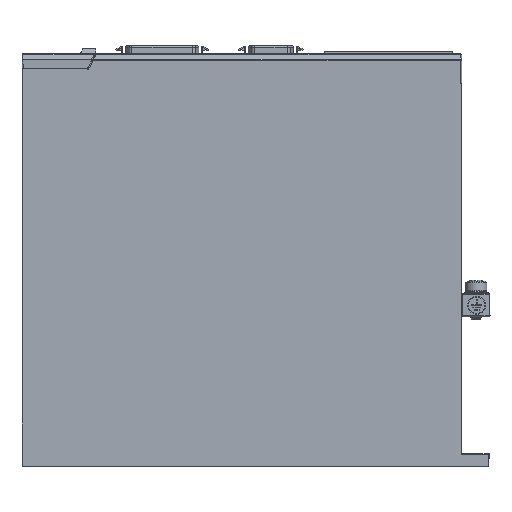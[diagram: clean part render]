
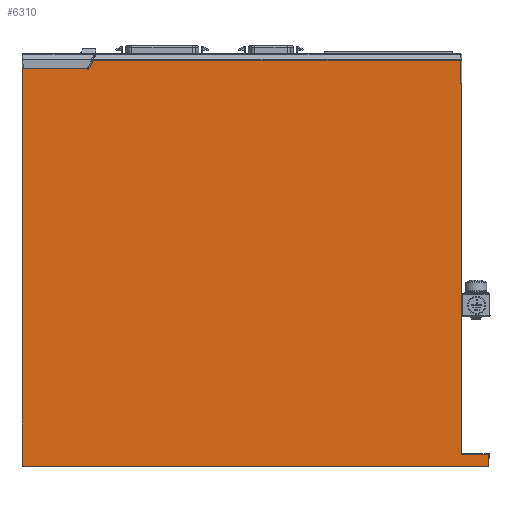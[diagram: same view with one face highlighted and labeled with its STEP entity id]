
A CAD part, left-side view. The second image highlights one B-rep face of the part: STEP entity #6310.
In plain terms, the highlighted planar face has unit normal (-1, 0, 0).
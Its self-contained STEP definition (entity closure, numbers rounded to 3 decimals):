
#15 = EDGE_CURVE ( 'NONE', #24849, #35013, #59432, .T. ) ;
#437 = CARTESIAN_POINT ( 'NONE',  ( -88.268, -89.66, 234.576 ) ) ;
#439 = VECTOR ( 'NONE', #65953, 1000. ) ;
#866 = DIRECTION ( 'NONE',  ( 0., -1., 0. ) ) ;
#979 = LINE ( 'NONE', #30697, #55210 ) ;
#3488 = ORIENTED_EDGE ( 'NONE', *, *, #22729, .F. ) ;
#3573 = LINE ( 'NONE', #18197, #18029 ) ;
#4011 = LINE ( 'NONE', #33346, #32866 ) ;
#4453 = EDGE_LOOP ( 'NONE', ( #65930, #54439, #39209, #3488, #32643, #24114, #66497, #41334, #37286, #64024, #42724, #40589 ) ) ;
#5048 = CARTESIAN_POINT ( 'NONE',  ( -88.268, 46.4, 240.04 ) ) ;
#5543 = DIRECTION ( 'NONE',  ( 0., 0., -1. ) ) ;
#6136 = CARTESIAN_POINT ( 'NONE',  ( -88.268, 44.292, 243.09 ) ) ;
#6273 = VECTOR ( 'NONE', #61320, 1000. ) ;
#6310 = ADVANCED_FACE ( 'NONE', ( #32298 ), #53467, .F. ) ;
#6721 = CARTESIAN_POINT ( 'NONE',  ( -88.268, 46.226, 239.74 ) ) ;
#7740 = VERTEX_POINT ( 'NONE', #68295 ) ;
#8924 = LINE ( 'NONE', #37995, #37744 ) ;
#11206 = CARTESIAN_POINT ( 'NONE',  ( -88.268, 70.84, 95.34 ) ) ;
#11389 = VERTEX_POINT ( 'NONE', #16054 ) ;
#13323 = VECTOR ( 'NONE', #44036, 1000. ) ;
#14559 = VERTEX_POINT ( 'NONE', #437 ) ;
#16054 = CARTESIAN_POINT ( 'NONE',  ( -88.268, 46.4, 240.04 ) ) ;
#17996 = EDGE_CURVE ( 'NONE', #42164, #24849, #29422, .T. ) ;
#18029 = VECTOR ( 'NONE', #61521, 1000. ) ;
#18197 = CARTESIAN_POINT ( 'NONE',  ( -88.268, 46.4, 240.04 ) ) ;
#20287 = EDGE_CURVE ( 'NONE', #11389, #30192, #61373, .T. ) ;
#21081 = CARTESIAN_POINT ( 'NONE',  ( -88.268, -89.16, 95.34 ) ) ;
#22463 = AXIS2_PLACEMENT_3D ( 'NONE', #48007, #58860, #26452 ) ;
#22729 = EDGE_CURVE ( 'NONE', #36299, #7740, #59092, .T. ) ;
#23545 = EDGE_CURVE ( 'NONE', #48432, #14559, #4011, .T. ) ;
#24114 = ORIENTED_EDGE ( 'NONE', *, *, #44156, .F. ) ;
#24665 = CARTESIAN_POINT ( 'NONE',  ( -88.268, -101.07, 194.347 ) ) ;
#24849 = VERTEX_POINT ( 'NONE', #6721 ) ;
#25473 = EDGE_CURVE ( 'NONE', #59774, #36299, #35129, .T. ) ;
#25975 = CARTESIAN_POINT ( 'NONE',  ( -88.268, -99.413, 99.408 ) ) ;
#26452 = DIRECTION ( 'NONE',  ( 0., 0., -1. ) ) ;
#27203 = VECTOR ( 'NONE', #64650, 1000. ) ;
#28725 = EDGE_CURVE ( 'NONE', #63455, #7740, #48874, .T. ) ;
#29422 = LINE ( 'NONE', #6136, #13323 ) ;
#30192 = VERTEX_POINT ( 'NONE', #45142 ) ;
#30309 = VECTOR ( 'NONE', #40801, 1000. ) ;
#30697 = CARTESIAN_POINT ( 'NONE',  ( -88.268, 70.34, 95.34 ) ) ;
#31762 = DIRECTION ( 'NONE',  ( 0., 1., 0. ) ) ;
#32298 = FACE_OUTER_BOUND ( 'NONE', #4453, .T. ) ;
#32347 = EDGE_CURVE ( 'NONE', #30192, #63455, #979, .T. ) ;
#32643 = ORIENTED_EDGE ( 'NONE', *, *, #25473, .F. ) ;
#32866 = VECTOR ( 'NONE', #866, 1000. ) ;
#33136 = CARTESIAN_POINT ( 'NONE',  ( -88.268, 44.292, 243.09 ) ) ;
#33346 = CARTESIAN_POINT ( 'NONE',  ( -88.268, 53.34, 234.576 ) ) ;
#33943 = CARTESIAN_POINT ( 'NONE',  ( -88.268, -89.66, 99.408 ) ) ;
#34509 = VECTOR ( 'NONE', #54546, 1000. ) ;
#35013 = VERTEX_POINT ( 'NONE', #61688 ) ;
#35129 = LINE ( 'NONE', #66580, #6273 ) ;
#36156 = DIRECTION ( 'NONE',  ( 0., 0., -1. ) ) ;
#36299 = VERTEX_POINT ( 'NONE', #25975 ) ;
#36948 = CARTESIAN_POINT ( 'NONE',  ( -88.268, 70.34, 239.74 ) ) ;
#37286 = ORIENTED_EDGE ( 'NONE', *, *, #44269, .T. ) ;
#37744 = VECTOR ( 'NONE', #5543, 1000. ) ;
#37898 = CARTESIAN_POINT ( 'NONE',  ( -88.268, -89.16, 234.576 ) ) ;
#37995 = CARTESIAN_POINT ( 'NONE',  ( -88.268, -89.66, 95.34 ) ) ;
#38679 = CARTESIAN_POINT ( 'NONE',  ( -88.268, 70.34, 243.09 ) ) ;
#39209 = ORIENTED_EDGE ( 'NONE', *, *, #28725, .T. ) ;
#40589 = ORIENTED_EDGE ( 'NONE', *, *, #56984, .T. ) ;
#40801 = DIRECTION ( 'NONE',  ( 0., 0.017, -1. ) ) ;
#41334 = ORIENTED_EDGE ( 'NONE', *, *, #58538, .T. ) ;
#41616 = LINE ( 'NONE', #21081, #27203 ) ;
#42164 = VERTEX_POINT ( 'NONE', #33136 ) ;
#42724 = ORIENTED_EDGE ( 'NONE', *, *, #15, .T. ) ;
#44036 = DIRECTION ( 'NONE',  ( 0., 0.5, -0.866 ) ) ;
#44156 = EDGE_CURVE ( 'NONE', #14559, #59774, #8924, .T. ) ;
#44269 = EDGE_CURVE ( 'NONE', #68434, #42164, #59740, .T. ) ;
#45142 = CARTESIAN_POINT ( 'NONE',  ( -88.268, 70.34, 240.04 ) ) ;
#48007 = CARTESIAN_POINT ( 'NONE',  ( -88.268, 70.34, 197.34 ) ) ;
#48432 = VERTEX_POINT ( 'NONE', #37898 ) ;
#48874 = LINE ( 'NONE', #11206, #34509 ) ;
#52565 = CARTESIAN_POINT ( 'NONE',  ( -88.268, 70.34, 95.34 ) ) ;
#53467 = PLANE ( 'NONE',  #22463 ) ;
#53854 = DIRECTION ( 'NONE',  ( 0., 1., 0. ) ) ;
#54439 = ORIENTED_EDGE ( 'NONE', *, *, #32347, .T. ) ;
#54546 = DIRECTION ( 'NONE',  ( 0., -1., 0. ) ) ;
#55210 = VECTOR ( 'NONE', #36156, 1000. ) ;
#56984 = EDGE_CURVE ( 'NONE', #35013, #11389, #3573, .T. ) ;
#57720 = VECTOR ( 'NONE', #31762, 1000. ) ;
#58538 = EDGE_CURVE ( 'NONE', #48432, #68434, #41616, .T. ) ;
#58860 = DIRECTION ( 'NONE',  ( 1., 0., 0. ) ) ;
#59092 = LINE ( 'NONE', #24665, #30309 ) ;
#59432 = LINE ( 'NONE', #36948, #57720 ) ;
#59650 = VECTOR ( 'NONE', #53854, 1000. ) ;
#59740 = LINE ( 'NONE', #38679, #439 ) ;
#59774 = VERTEX_POINT ( 'NONE', #33943 ) ;
#61320 = DIRECTION ( 'NONE',  ( 0., -1., 0. ) ) ;
#61373 = LINE ( 'NONE', #5048, #59650 ) ;
#61521 = DIRECTION ( 'NONE',  ( 0., 0., 1. ) ) ;
#61688 = CARTESIAN_POINT ( 'NONE',  ( -88.268, 46.4, 239.74 ) ) ;
#63455 = VERTEX_POINT ( 'NONE', #52565 ) ;
#63962 = CARTESIAN_POINT ( 'NONE',  ( -88.268, -89.16, 243.09 ) ) ;
#64024 = ORIENTED_EDGE ( 'NONE', *, *, #17996, .T. ) ;
#64650 = DIRECTION ( 'NONE',  ( 0., 0., 1. ) ) ;
#65930 = ORIENTED_EDGE ( 'NONE', *, *, #20287, .T. ) ;
#65953 = DIRECTION ( 'NONE',  ( 0., 1., 0. ) ) ;
#66497 = ORIENTED_EDGE ( 'NONE', *, *, #23545, .F. ) ;
#66580 = CARTESIAN_POINT ( 'NONE',  ( -88.268, 70.34, 99.408 ) ) ;
#68295 = CARTESIAN_POINT ( 'NONE',  ( -88.268, -99.342, 95.34 ) ) ;
#68434 = VERTEX_POINT ( 'NONE', #63962 ) ;
